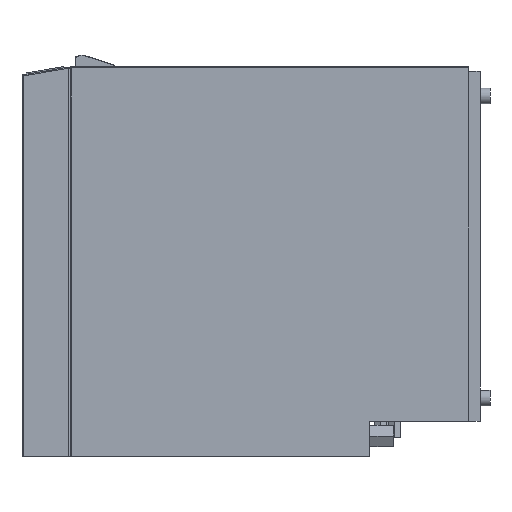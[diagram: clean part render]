
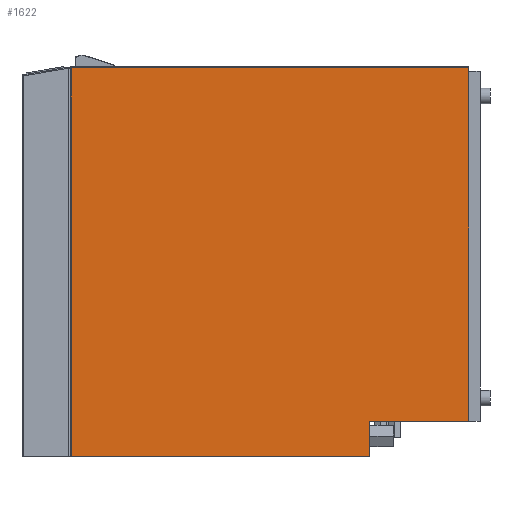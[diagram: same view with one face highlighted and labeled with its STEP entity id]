
A CAD part, left-side view. The second image highlights one B-rep face of the part: STEP entity #1622.
In plain terms, the highlighted planar face has unit normal (-1, 0, 0).
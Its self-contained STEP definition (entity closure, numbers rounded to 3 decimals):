
#155 = EDGE_CURVE ( 'NONE', #5658, #658, #6763, .T. ) ;
#165 = VECTOR ( 'NONE', #5751, 1000. ) ;
#392 = CARTESIAN_POINT ( 'NONE',  ( -230., 17., 0. ) ) ;
#427 = ORIENTED_EDGE ( 'NONE', *, *, #4085, .F. ) ;
#490 = VERTEX_POINT ( 'NONE', #8759 ) ;
#658 = VERTEX_POINT ( 'NONE', #1218 ) ;
#790 = VECTOR ( 'NONE', #6471, 1000. ) ;
#851 = CARTESIAN_POINT ( 'NONE',  ( -230., 17., -12.6 ) ) ;
#858 = EDGE_LOOP ( 'NONE', ( #5877, #3762, #3329, #5077, #3536, #427 ) ) ;
#978 = EDGE_CURVE ( 'NONE', #1379, #490, #7991, .T. ) ;
#1184 = LINE ( 'NONE', #7261, #2853 ) ;
#1218 = CARTESIAN_POINT ( 'NONE',  ( -230., 628.2, -67.6 ) ) ;
#1236 = CARTESIAN_POINT ( 'NONE',  ( -230., 628.2, 530.7 ) ) ;
#1379 = VERTEX_POINT ( 'NONE', #851 ) ;
#1622 = ADVANCED_FACE ( 'NONE', ( #6608 ), #2697, .F. ) ;
#1701 = VECTOR ( 'NONE', #8233, 1000. ) ;
#1752 = DIRECTION ( 'NONE',  ( 0., 0., 1. ) ) ;
#2154 = AXIS2_PLACEMENT_3D ( 'NONE', #9079, #2668, #7662 ) ;
#2414 = EDGE_CURVE ( 'NONE', #7349, #1379, #3829, .T. ) ;
#2668 = DIRECTION ( 'NONE',  ( 1., 0., 0. ) ) ;
#2679 = DIRECTION ( 'NONE',  ( 0., 0., -1. ) ) ;
#2697 = PLANE ( 'NONE',  #2154 ) ;
#2853 = VECTOR ( 'NONE', #3619, 1000. ) ;
#3329 = ORIENTED_EDGE ( 'NONE', *, *, #978, .T. ) ;
#3536 = ORIENTED_EDGE ( 'NONE', *, *, #155, .T. ) ;
#3619 = DIRECTION ( 'NONE',  ( 0., 1., 0. ) ) ;
#3762 = ORIENTED_EDGE ( 'NONE', *, *, #2414, .T. ) ;
#3829 = LINE ( 'NONE', #7643, #1701 ) ;
#4045 = CARTESIAN_POINT ( 'NONE',  ( -230., 169., -12.6 ) ) ;
#4085 = EDGE_CURVE ( 'NONE', #4262, #658, #5205, .T. ) ;
#4203 = VECTOR ( 'NONE', #1752, 1000. ) ;
#4257 = CARTESIAN_POINT ( 'NONE',  ( -230., 628.2, 0. ) ) ;
#4262 = VERTEX_POINT ( 'NONE', #7011 ) ;
#4429 = EDGE_CURVE ( 'NONE', #490, #5658, #1184, .T. ) ;
#4915 = CARTESIAN_POINT ( 'NONE',  ( -230., 90.6, -67.6 ) ) ;
#5077 = ORIENTED_EDGE ( 'NONE', *, *, #4429, .T. ) ;
#5205 = LINE ( 'NONE', #4915, #165 ) ;
#5658 = VERTEX_POINT ( 'NONE', #1236 ) ;
#5726 = LINE ( 'NONE', #6445, #790 ) ;
#5751 = DIRECTION ( 'NONE',  ( 0., 1., 0. ) ) ;
#5877 = ORIENTED_EDGE ( 'NONE', *, *, #6983, .T. ) ;
#6445 = CARTESIAN_POINT ( 'NONE',  ( -230., 169., -67.6 ) ) ;
#6471 = DIRECTION ( 'NONE',  ( 0., 0., 1. ) ) ;
#6608 = FACE_OUTER_BOUND ( 'NONE', #858, .T. ) ;
#6763 = LINE ( 'NONE', #4257, #8532 ) ;
#6983 = EDGE_CURVE ( 'NONE', #4262, #7349, #5726, .T. ) ;
#7011 = CARTESIAN_POINT ( 'NONE',  ( -230., 169., -67.6 ) ) ;
#7261 = CARTESIAN_POINT ( 'NONE',  ( -230., 629.9, 530.7 ) ) ;
#7349 = VERTEX_POINT ( 'NONE', #4045 ) ;
#7643 = CARTESIAN_POINT ( 'NONE',  ( -230., -1., -12.6 ) ) ;
#7662 = DIRECTION ( 'NONE',  ( 0., 0., -1. ) ) ;
#7991 = LINE ( 'NONE', #392, #4203 ) ;
#8233 = DIRECTION ( 'NONE',  ( 0., -1., 0. ) ) ;
#8532 = VECTOR ( 'NONE', #2679, 1000. ) ;
#8759 = CARTESIAN_POINT ( 'NONE',  ( -230., 17., 530.7 ) ) ;
#9079 = CARTESIAN_POINT ( 'NONE',  ( -230., 17., 0. ) ) ;
